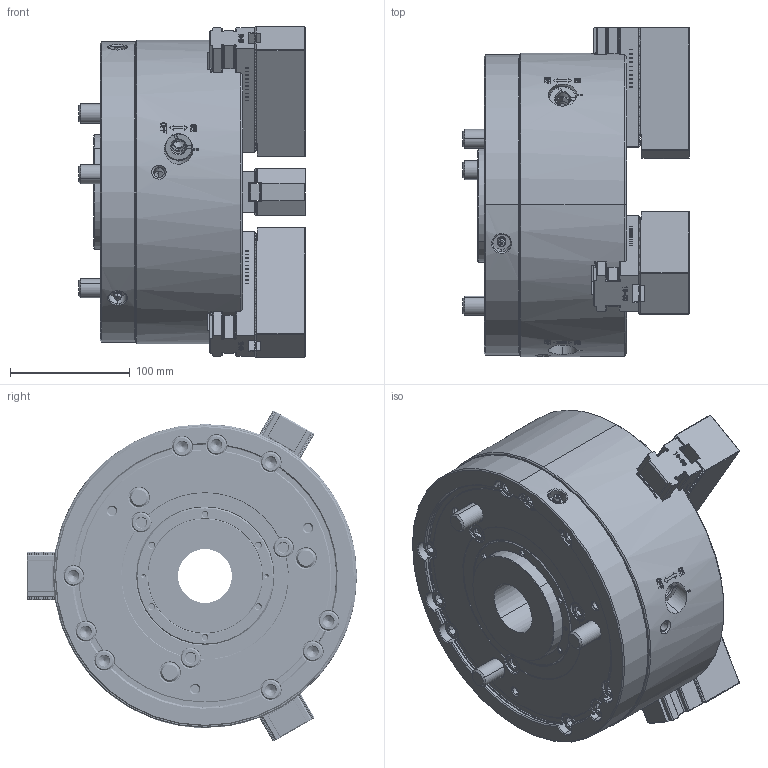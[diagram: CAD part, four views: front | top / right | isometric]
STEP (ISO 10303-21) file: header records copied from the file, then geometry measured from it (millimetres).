
FILE_DESCRIPTION (( 'STEP AP214' ), '1' );
FILE_NAME ('QJR10_61P261582-4_OC.STEP', '2026-03-12T06:15:52', ( '' ), ( '' ), 'SwSTEP 2.0', 'SolidWorks 2022', '' );
FILE_SCHEMA (( 'AUTOMOTIVE_DESIGN' ));
Length unit declared in the file: millimetre
Products named in the file (7): DT1_QJR10_BASE^DT1_QJR10; DT1_QJR10_DRAWNUT^DT1_QJR10; Copy of 0030112035^DT1_QJR10; QJR10_61P261582-4_OC; DT1_QJR10_SOFTJAW^DT1_QJR10; DT1_QJR10_BASEJAW^DT1_QJR10; DT1_QJR10_M16x120^DT1_QJR10
Assembly tree (17 placements, depth 2):
  QJR10_61P261582-4_OC
    DT1_QJR10_DRAWNUT^DT1_QJR10
    DT1_QJR10_SOFTJAW^DT1_QJR10  x3
    DT1_QJR10_M16x120^DT1_QJR10  x3
    DT1_QJR10_BASEJAW^DT1_QJR10  x3
    DT1_QJR10_BASE^DT1_QJR10
    Copy of 0030112035^DT1_QJR10  x6
Bounding box: 189.3 x 275.64 x 276.85 mm (x, y, z)
Volume: 5890290.8 mm3; surface area: 526791.2 mm2
Topology: 17 solids, 68 shells, 8421 faces, 23224 edges, 15234 vertices
Faces by surface type: plane 5464, cylinder 1157, bspline 1075, cone 650, torus 63, sphere 12
Entity records: 225527 total; most frequent: CARTESIAN_POINT 99771, ORIENTED_EDGE 28512, DIRECTION 21506, EDGE_CURVE 14256, VERTEX_POINT 9385, VECTOR 9280, LINE 9280, AXIS2_PLACEMENT_3D 6113
